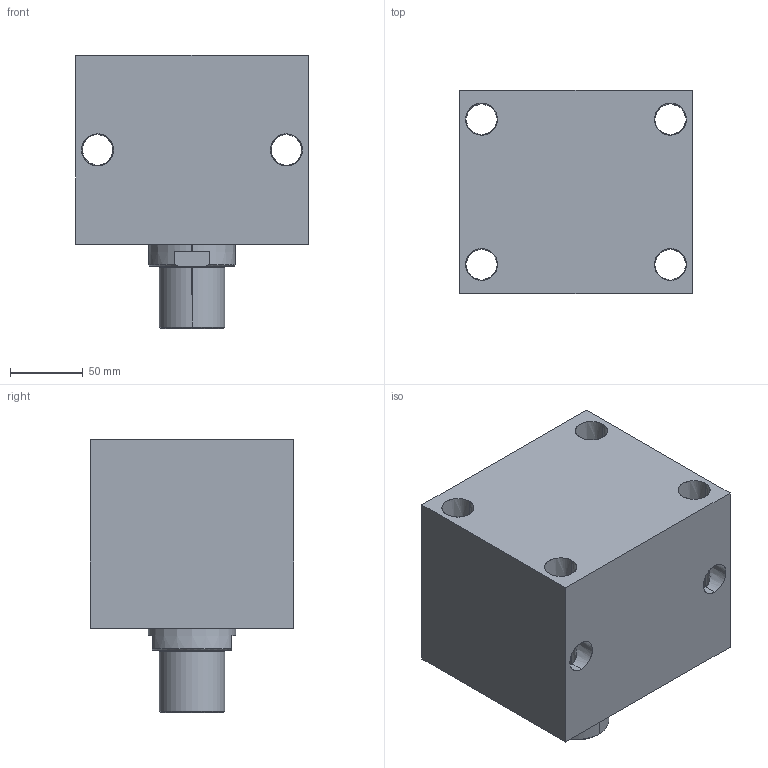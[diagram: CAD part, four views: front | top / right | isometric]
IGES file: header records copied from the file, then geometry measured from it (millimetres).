
Start section: SolidWorks IGES file using analytic representation for surfaces
Global section: file name: D:\karuppas\Clasp\3D model\Block cylinder B01C-Male thread - Copy\B01C-950M\Block cylinder B01C-950M.IGS; native system: SolidWorks 2017; preprocessor: SolidWorks 2017; author: pc; date: 220709.235134; units: millimetre
Bounding box: 160 x 140 x 188 mm (x, y, z)
Surface area: 205501.3 mm2 (no closed solid volume)
Topology: 0 solids, 0 shells, 359 faces, 5665 edges, 5661 vertices
Faces by surface type: bspline 305, revolution 54
